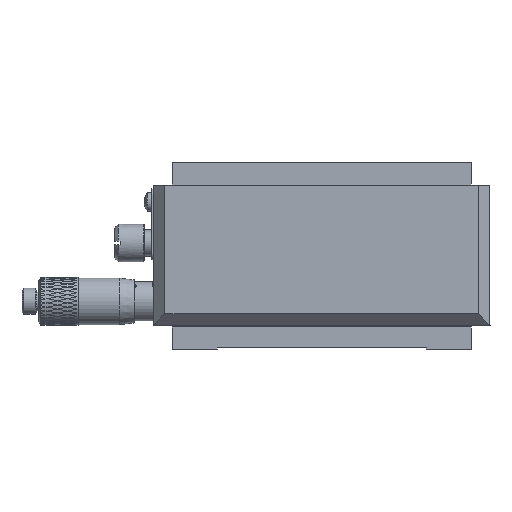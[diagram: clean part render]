
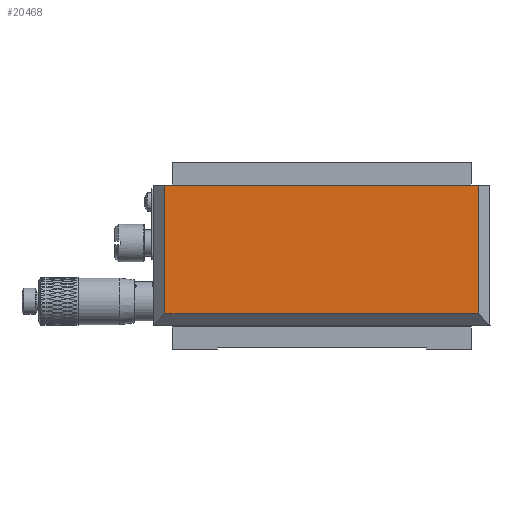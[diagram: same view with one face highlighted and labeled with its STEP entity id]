
A CAD part, front view. The second image highlights one B-rep face of the part: STEP entity #20468.
In plain terms, the highlighted planar face has unit normal (0, -1, 0).
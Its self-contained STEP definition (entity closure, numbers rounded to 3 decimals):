
#478 = VECTOR ( 'NONE', #15842, 1000. ) ;
#938 = AXIS2_PLACEMENT_3D ( 'NONE', #3163, #3704, #14400 ) ;
#1277 = ORIENTED_EDGE ( 'NONE', *, *, #13622, .T. ) ;
#1591 = VERTEX_POINT ( 'NONE', #24905 ) ;
#1705 = CARTESIAN_POINT ( 'NONE',  ( 42., -28., 44. ) ) ;
#2309 = DIRECTION ( 'NONE',  ( 0., 0., -1. ) ) ;
#3163 = CARTESIAN_POINT ( 'NONE',  ( 0., -28., 25.25 ) ) ;
#3704 = DIRECTION ( 'NONE',  ( 0., -1., 0. ) ) ;
#4026 = CARTESIAN_POINT ( 'NONE',  ( 0., -28., 9.5 ) ) ;
#5685 = PLANE ( 'NONE',  #938 ) ;
#6116 = EDGE_CURVE ( 'NONE', #12153, #1591, #28768, .T. ) ;
#6718 = DIRECTION ( 'NONE',  ( 1., 0., 0. ) ) ;
#7429 = EDGE_CURVE ( 'NONE', #30029, #12153, #27066, .T. ) ;
#11023 = DIRECTION ( 'NONE',  ( 0., 0., 1. ) ) ;
#11209 = ORIENTED_EDGE ( 'NONE', *, *, #6116, .T. ) ;
#12153 = VERTEX_POINT ( 'NONE', #12524 ) ;
#12524 = CARTESIAN_POINT ( 'NONE',  ( -42., -28., 9.5 ) ) ;
#13622 = EDGE_CURVE ( 'NONE', #1591, #30432, #27092, .T. ) ;
#14400 = DIRECTION ( 'NONE',  ( 0., 0., 1. ) ) ;
#15842 = DIRECTION ( 'NONE',  ( 1., 0., 0. ) ) ;
#16314 = ORIENTED_EDGE ( 'NONE', *, *, #33612, .F. ) ;
#19899 = CARTESIAN_POINT ( 'NONE',  ( -42., -28., 44. ) ) ;
#20468 = ADVANCED_FACE ( 'NONE', ( #27913 ), #5685, .T. ) ;
#21457 = LINE ( 'NONE', #22177, #478 ) ;
#22177 = CARTESIAN_POINT ( 'NONE',  ( 0., -28., 44. ) ) ;
#22646 = VECTOR ( 'NONE', #11023, 1000. ) ;
#23816 = EDGE_LOOP ( 'NONE', ( #25513, #11209, #1277, #16314 ) ) ;
#24905 = CARTESIAN_POINT ( 'NONE',  ( 42., -28., 9.5 ) ) ;
#25513 = ORIENTED_EDGE ( 'NONE', *, *, #7429, .T. ) ;
#27066 = LINE ( 'NONE', #27241, #27959 ) ;
#27092 = LINE ( 'NONE', #35561, #22646 ) ;
#27241 = CARTESIAN_POINT ( 'NONE',  ( -42., -28., 25.25 ) ) ;
#27913 = FACE_OUTER_BOUND ( 'NONE', #23816, .T. ) ;
#27959 = VECTOR ( 'NONE', #2309, 1000. ) ;
#28768 = LINE ( 'NONE', #4026, #30021 ) ;
#30021 = VECTOR ( 'NONE', #6718, 1000. ) ;
#30029 = VERTEX_POINT ( 'NONE', #19899 ) ;
#30432 = VERTEX_POINT ( 'NONE', #1705 ) ;
#33612 = EDGE_CURVE ( 'NONE', #30029, #30432, #21457, .T. ) ;
#35561 = CARTESIAN_POINT ( 'NONE',  ( 42., -28., 25.25 ) ) ;
